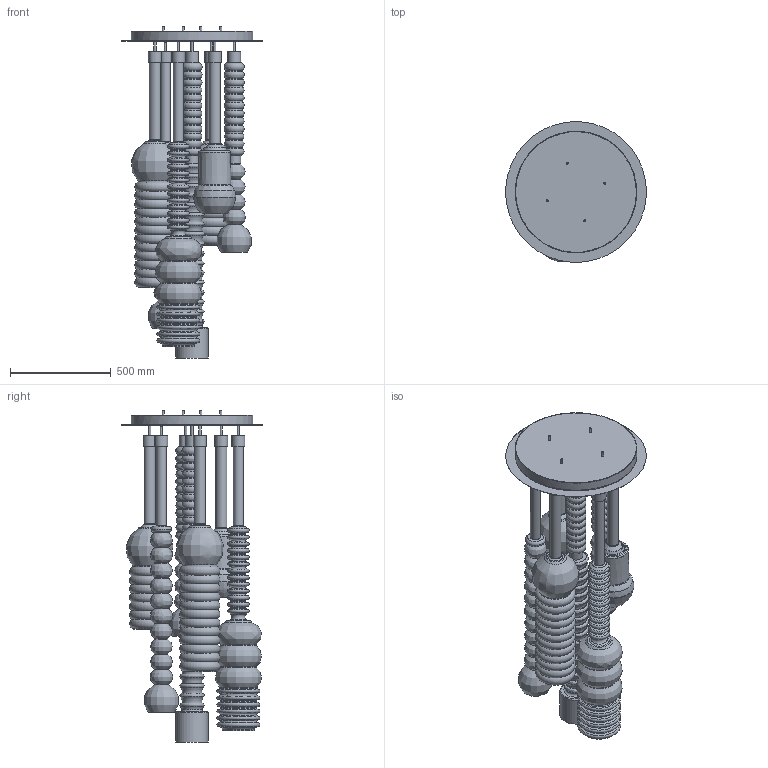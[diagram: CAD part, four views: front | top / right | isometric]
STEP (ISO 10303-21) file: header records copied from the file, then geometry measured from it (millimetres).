
FILE_DESCRIPTION(/* description */ (''),/* implementation_level */ '2;1');
FILE_NAME(/* name */ 'D:\Users\pavel.daniel.LASVIT\Desktop\obaly\3ds\16X019-00.stp',/* time_stamp */ '2017-03-13T10:47:48+01:00',/* author */ ('pavel.daniel'),/* organization */ (''),/* preprocessor_version */ 'ST-DEVELOPER v15.6',/* originating_system */ 'Autodesk Inventor 2015',/* authorisation */ '');
FILE_SCHEMA (('AUTOMOTIVE_DESIGN { 1 0 10303 214 3 1 1 }'));
Length unit declared in the file: millimetre
Products named in the file (1): 16X019-00_CE_Náhrada_1
Bounding box: 699.17 x 699.17 x 1649.41 mm (x, y, z)
Volume: 99418527.4 mm3; surface area: 5490637.1 mm2
Topology: 7 solids, 7 shells, 416 faces, 874 edges, 532 vertices
Faces by surface type: torus 162, plane 90, bspline 62, cone 57, cylinder 44, sphere 1
Full cylindrical faces by diameter (mm): 10 x12, 12 x5, 27 x1, 50 x2, 55.626 x3, 64 x7, 66 x2, 99.254 x1, 124.919 x1, 160.559 x1, 167.972 x2, 602 x1, 604 x1, 700 x1
Entity records: 19187 total; most frequent: CARTESIAN_POINT 10982, DIRECTION 1690, ORIENTED_EDGE 1182, AXIS2_PLACEMENT_3D 823, EDGE_LOOP 738, EDGE_CURVE 591, VERTEX_POINT 509, CIRCLE 468
